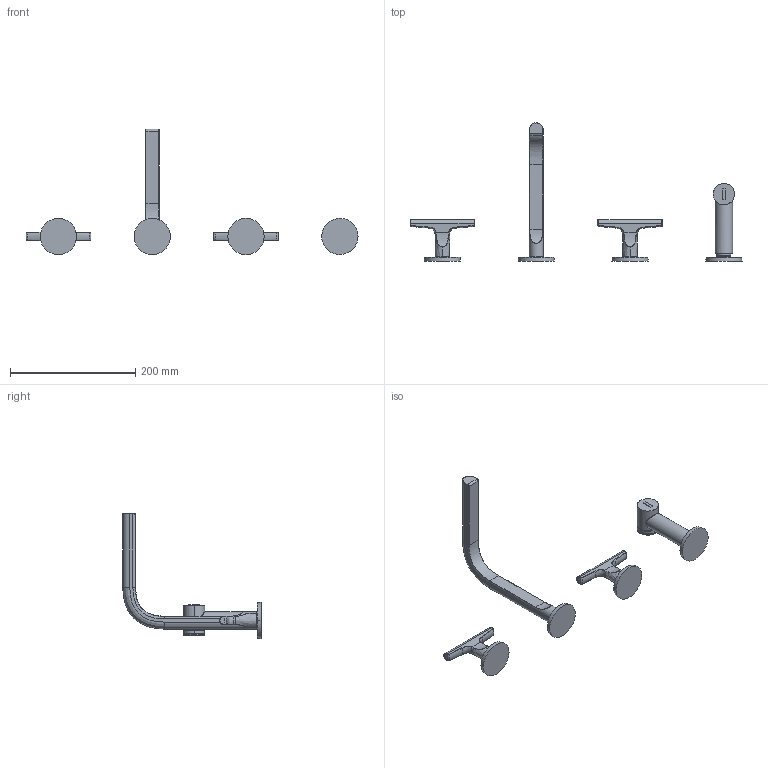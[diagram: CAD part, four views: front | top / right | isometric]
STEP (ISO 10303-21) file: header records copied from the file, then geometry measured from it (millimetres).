
FILE_DESCRIPTION(('STEP AP214'),'2;1');
FILE_NAME('DIS_3D_J065.stp','2025-04-03T12:25:04',(''),(''),'2015.2.119','THINKDESIGN','');
FILE_SCHEMA(('AUTOMOTIVE_DESIGN'));
Length unit declared in the file: millimetre
Products named in the file (1): top
Bounding box: 530.7 x 221.3 x 200.25 mm (x, y, z)
Volume: 260997.7 mm3; surface area: 86056.2 mm2
Topology: 7 solids, 7 shells, 257 faces, 794 edges, 618 vertices
Faces by surface type: bspline 138, cylinder 74, plane 45
Entity records: 21241 total; most frequent: CARTESIAN_POINT 13912, ORIENTED_EDGE 1030, DIRECTION 962, EDGE_CURVE 515, AXIS2_PLACEMENT_3D 367, VERTEX_POINT 346, COMPOSITE_CURVE_SEGMENT 270, STYLED_ITEM 266
